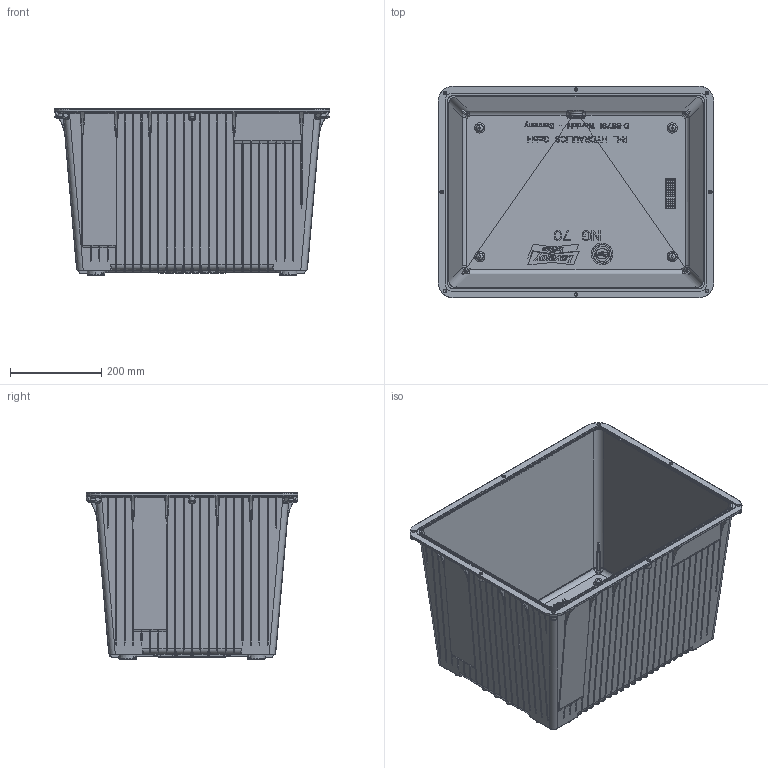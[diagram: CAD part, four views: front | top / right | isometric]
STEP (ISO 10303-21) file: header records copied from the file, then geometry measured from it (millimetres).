
FILE_DESCRIPTION((''),'2;1');
FILE_NAME('BAL1006','2019-04-03T17:18:56',('Eata'),(''),'CREO PARAMETRIC BY PTC INC, 2018190','CREO PARAMETRIC BY PTC INC, 2018190','');
FILE_SCHEMA(('CONFIG_CONTROL_DESIGN'));
Products named in the file (1): BAL1006
Bounding box: 604.98 x 464.98 x 364.99 mm (x, y, z)
Volume: 3824276.1 mm3; surface area: 1883425.1 mm2
Topology: 3 solids, 16 shells, 6153 faces, 16641 edges, 10654 vertices
Faces by surface type: plane 2616, bspline 2276, cylinder 931, cone 306, torus 16, sphere 8
Entity records: 395839 total; most frequent: CARTESIAN_POINT 262882, ORIENTED_EDGE 33148, DIRECTION 18504, EDGE_CURVE 16608, VERTEX_POINT 10654, VECTOR 8478, LINE 8478, B_SPLINE_CURVE_WITH_KNOTS 6995
